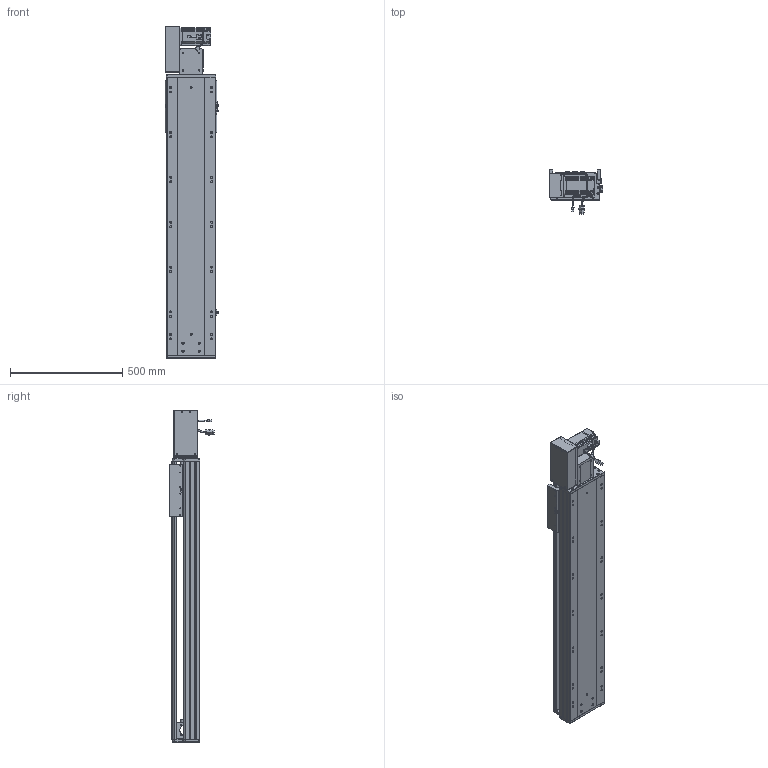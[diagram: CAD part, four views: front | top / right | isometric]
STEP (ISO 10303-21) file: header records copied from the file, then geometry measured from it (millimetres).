
FILE_DESCRIPTION (( 'STEP AP203' ), '1' );
FILE_NAME ('RY220-T-300-LK.SLDASM_900.step', '2022-07-25T08:13:45', ( '' ), ( '' ), 'SwSTEP 2.0', 'SolidWorks 2016', '' );
FILE_SCHEMA (( 'CONFIG_CONTROL_DESIGN' ));
Length unit declared in the file: millimetre
Products named in the file (14): RY220-T-300-LK.SLDASM_900; RY220-T-蛌殏萇儂假蚾啣(750W); RY220翋肮祭謫裔啣; RY220-T-湍謫欶(鍼踢); RY220-同步轮副支撑座6304×2; RY220-T菁釱-300_900; RY220翋肮祭謫釱; RY220圉猾敕々湍臏賑輸; RY220-T-300-奻裔啣_900; 覜茼ん672; 110A-T-肮祭謫釱傷裔; 怢湛750W_ECMA-CX0807ES; 滅袉蝶18-15; RY220-俋离672覜茼んえ
Assembly tree (18 placements, depth 2):
  RY220-T-300-LK.SLDASM_900
    RY220-T菁釱-300_900
    RY220翋肮祭謫釱
    覜茼ん672  x3
    RY220圉猾敕々湍臏賑輸
    RY220-T-300-奻裔啣_900
    RY220-俋离672覜茼んえ
    滅袉蝶18-15  x3
    RY220翋肮祭謫裔啣  x2
    110A-T-肮祭謫釱傷裔
    怢湛750W_ECMA-CX0807ES
    RY220-T-湍謫欶(鍼踢)
    RY220-T-蛌殏萇儂假蚾啣(750W)
    RY220-同步轮副支撑座6304×2
Bounding box: 239.7 x 198.77 x 1479 mm (x, y, z)
Volume: 11611601.6 mm3; surface area: 3369649.4 mm2
Topology: 19 solids, 19 shells, 2608 faces, 7195 edges, 4570 vertices
Faces by surface type: cylinder 1216, plane 1069, cone 241, bspline 56, sphere 16, torus 10
Entity records: 86771 total; most frequent: CARTESIAN_POINT 24785, ORIENTED_EDGE 12890, DIRECTION 12156, EDGE_CURVE 6445, AXIS2_PLACEMENT_3D 4290, VERTEX_POINT 4194, LINE 3576, VECTOR 3576
